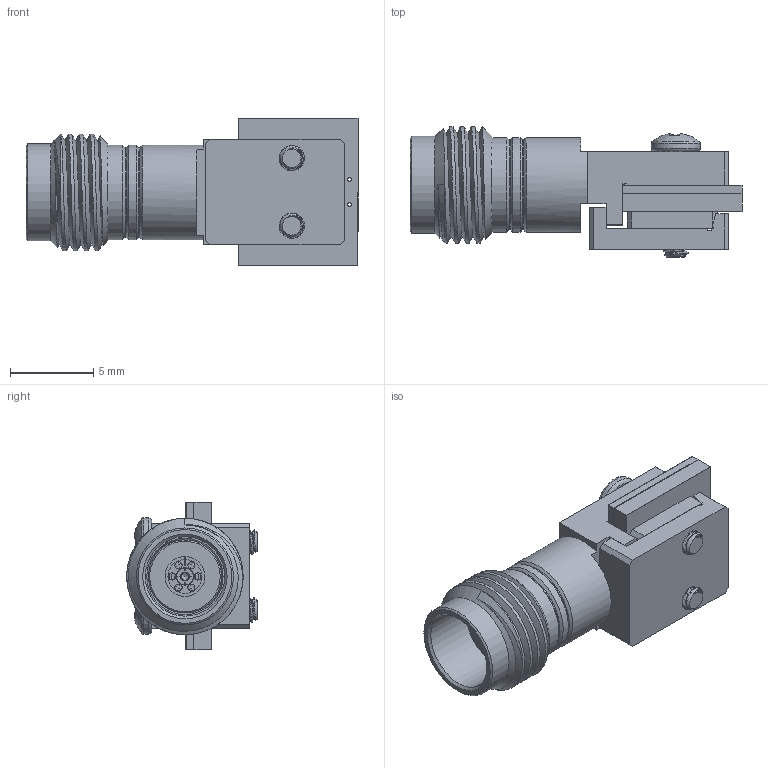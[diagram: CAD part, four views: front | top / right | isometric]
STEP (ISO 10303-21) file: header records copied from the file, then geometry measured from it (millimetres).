
FILE_DESCRIPTION (( 'STEP AP214' ), '1' );
FILE_NAME ('TMB-E4F2-1L1-01.STEP', '2020-09-03T01:46:33', ( '' ), ( '' ), 'SwSTEP 2.0', 'SolidWorks 2019', '' );
FILE_SCHEMA (( 'AUTOMOTIVE_DESIGN' ));
Length unit declared in the file: millimetre
Products named in the file (12): TMB-E4F2-1L1-01; 102-1121-700000C^60-20009-44071E_60-20009-44070E_EL-assy-solderless; 103-1872-226080A^60-20009-44071E_60-20009-44070E_EL-assy-solderless; 101-2194-440070C^60-20009-44071E_60-20009-44070E_EL-assy-solderless; plate-solderless; plate-solderless-base; 91772A055_Passivated 18-8 Stainless Steel Pan Head Phillips Screw, 0-80 Thread, 1_4_ Long _ McMaster-Carr_91772A055; CONNECTOR-PCB-EDGE-MOUNT_solderless; 60-20009-44070E^EL-assy-solderless_ﾄｬﾈﾏｨｨ_; 101-2735-440000C^60-20009-44071E_60-20009-44070E_EL-assy-solderless; 102-1416-700000A(2)^60-20009-44071E_60-20009-44070E_EL-assy-solderless; 60-20009-44071E^60-20009-44070E_EL-assy-solderless_ﾄｬﾈﾏｨｨ_
Assembly tree (12 placements, depth 4):
  TMB-E4F2-1L1-01
    CONNECTOR-PCB-EDGE-MOUNT_solderless
    plate-solderless-base
    91772A055_Passivated 18-8 Stainless Steel Pan Head Phillips Screw, 0-80 Thread, 1_4_ Long _ McMaster-Carr_91772A055  x2
    plate-solderless
    60-20009-44070E^EL-assy-solderless_ﾄｬﾈﾏｨｨ_
      60-20009-44071E^60-20009-44070E_EL-assy-solderless_ﾄｬﾈﾏｨｨ_
        103-1872-226080A^60-20009-44071E_60-20009-44070E_EL-assy-solderless
        101-2194-440070C^60-20009-44071E_60-20009-44070E_EL-assy-solderless
        101-2735-440000C^60-20009-44071E_60-20009-44070E_EL-assy-solderless
        102-1121-700000C^60-20009-44071E_60-20009-44070E_EL-assy-solderless
        102-1416-700000A(2)^60-20009-44071E_60-20009-44070E_EL-assy-solderless
Bounding box: 19.97 x 7.85 x 8.89 mm (x, y, z)
Volume: 556 mm3; surface area: 1914 mm2
Topology: 16 solids, 16 shells, 573 faces, 1693 edges, 1172 vertices
Faces by surface type: cylinder 322, plane 184, cone 47, torus 10, bspline 8, sphere 2
Full cylindrical faces by diameter (mm): 0.178 x1, 0.203 x150, 0.305 x1, 0.31 x1, 0.43 x6, 0.55 x1, 0.57 x1, 0.7 x1, 0.79 x1, 0.83 x1, 0.84 x1, 0.93 x1, 1 x2, 1.042 x2, 1.191 x2, 1.22 x1, 1.311 x2, 1.575 x2, 1.61 x1, 1.702 x2, 1.778 x1, 1.91 x1, 2.083 x2, 2.14 x1, 2.184 x10, 2.4 x2, 2.7 x1, 2.946 x2, 4.31 x1, 4.33 x1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
Entity records: 18938 total; most frequent: CARTESIAN_POINT 5947, DIRECTION 2442, ORIENTED_EDGE 2114, EDGE_LOOP 1090, EDGE_CURVE 1057, AXIS2_PLACEMENT_3D 1039, VERTEX_POINT 847, FACE_OUTER_BOUND 701
